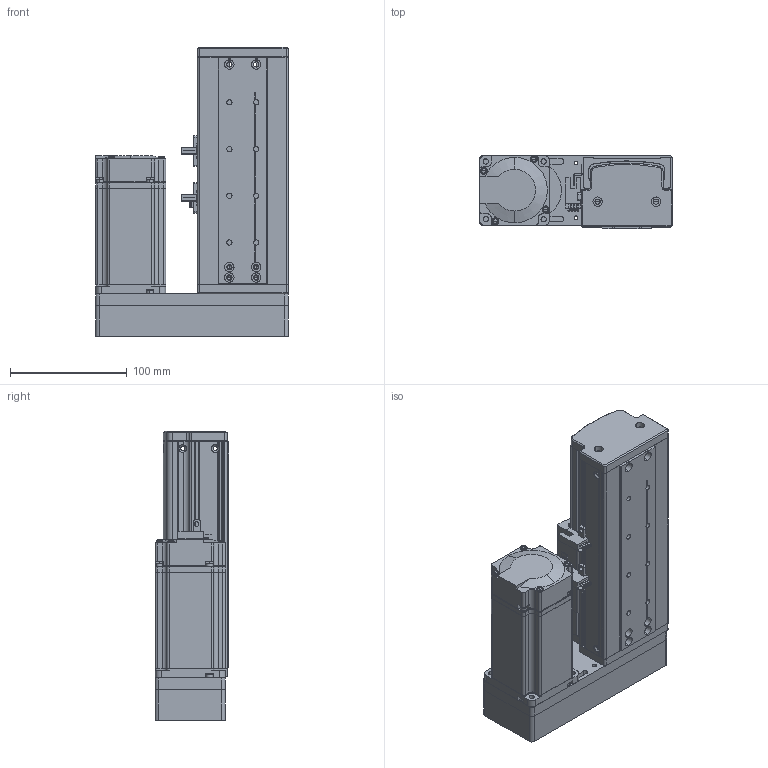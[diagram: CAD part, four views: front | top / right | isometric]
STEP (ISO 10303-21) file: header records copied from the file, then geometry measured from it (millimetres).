
FILE_DESCRIPTION (( 'STEP AP214' ), '1' );
FILE_NAME ('KSD75S-S40-MR-CM.STEP', '2019-10-18T07:09:00', ( '微软用户' ), ( '微软中国' ), 'SwSTEP 2.0', 'SolidWorks 2014', '' );
FILE_SCHEMA (( 'AUTOMOTIVE_DESIGN' ));
Length unit declared in the file: millimetre
Products named in the file (13): 綴傷啣 ; ヶ傷啣; 75裔啣-40俴最; 75遵耀郪耜啣-40俴最; 75遵賑雄釱; MGW15H賑寢40俴最 ; MGW15H賑寢40俴最; KSD75S-S40-MR-CM; MHMD042G1CA_2_03; 75宽模组保护罩左右折; 75宽马达安装板连板左右折丝杆; 覜茼え100遵圉猾敕; U倰嫖萇EEㄜSX672
Assembly tree (14 placements, depth 3):
  KSD75S-S40-MR-CM
    MGW15H賑寢40俴最 
      MGW15H賑寢40俴最
    75遵賑雄釱
    75遵耀郪耜啣-40俴最  x2
    75裔啣-40俴最
    ヶ傷啣
    綴傷啣 
    U倰嫖萇EEㄜSX672  x2
    覜茼え100遵圉猾敕
    75宽马达安装板连板左右折丝杆
    75宽模组保护罩左右折
    MHMD042G1CA_2_03
Bounding box: 165 x 63 x 247.5 mm (x, y, z)
Volume: 499511.1 mm3; surface area: 310995.8 mm2
Topology: 12 solids, 13 shells, 1273 faces, 3640 edges, 2369 vertices
Faces by surface type: cylinder 589, plane 537, cone 129, bspline 18
Entity records: 44138 total; most frequent: CARTESIAN_POINT 8467, DIRECTION 6462, ORIENTED_EDGE 6124, EDGE_CURVE 3133, AXIS2_PLACEMENT_3D 2331, VERTEX_POINT 2075, VECTOR 1800, LINE 1800
